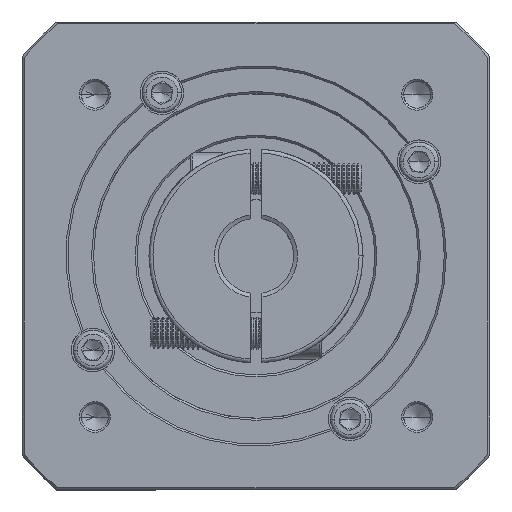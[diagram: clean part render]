
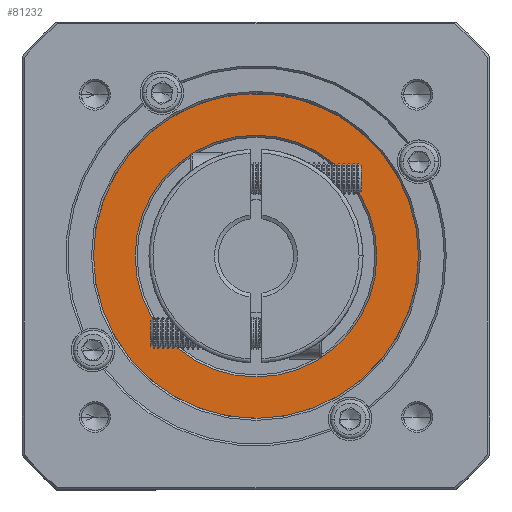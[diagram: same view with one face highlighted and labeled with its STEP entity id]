
A CAD part, top view. The second image highlights one B-rep face of the part: STEP entity #81232.
In plain terms, the highlighted planar face has unit normal (0, 0, 1).
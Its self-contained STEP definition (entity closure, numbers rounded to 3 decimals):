
#293 = DIRECTION ( 'NONE',  ( 1., 0., 0. ) ) ;
#825 = EDGE_CURVE ( 'NONE', #33603, #29951, #53869, .T. ) ;
#3410 = CIRCLE ( 'NONE', #113647, 41. ) ;
#6232 = CARTESIAN_POINT ( 'NONE',  ( 50.335, 124.67, -1.811 ) ) ;
#8587 = AXIS2_PLACEMENT_3D ( 'NONE', #101440, #47185, #110608 ) ;
#9395 = ORIENTED_EDGE ( 'NONE', *, *, #37857, .T. ) ;
#12086 = AXIS2_PLACEMENT_3D ( 'NONE', #52855, #116270, #61982 ) ;
#13715 = DIRECTION ( 'NONE',  ( 0., 0., -1. ) ) ;
#15083 = CARTESIAN_POINT ( 'NONE',  ( 11.477, 137.748, -1.811 ) ) ;
#15400 = DIRECTION ( 'NONE',  ( 1., 0., 0. ) ) ;
#18752 = CARTESIAN_POINT ( 'NONE',  ( 9.335, 124.67, -1.811 ) ) ;
#19174 = ORIENTED_EDGE ( 'NONE', *, *, #60988, .T. ) ;
#22316 = CIRCLE ( 'NONE', #34248, 30.5 ) ;
#22472 = CIRCLE ( 'NONE', #63298, 41. ) ;
#29219 = CARTESIAN_POINT ( 'NONE',  ( 80.835, 124.67, -1.811 ) ) ;
#29402 = CIRCLE ( 'NONE', #50559, 41. ) ;
#29951 = VERTEX_POINT ( 'NONE', #59395 ) ;
#30535 = EDGE_CURVE ( 'NONE', #49457, #73857, #89383, .T. ) ;
#30583 = VERTEX_POINT ( 'NONE', #44133 ) ;
#30883 = CIRCLE ( 'NONE', #108601, 41. ) ;
#31429 = AXIS2_PLACEMENT_3D ( 'NONE', #45629, #109002, #54716 ) ;
#33441 = DIRECTION ( 'NONE',  ( 0., 0., 1. ) ) ;
#33603 = VERTEX_POINT ( 'NONE', #107841 ) ;
#34248 = AXIS2_PLACEMENT_3D ( 'NONE', #68174, #13715, #77256 ) ;
#34361 = VERTEX_POINT ( 'NONE', #102905 ) ;
#36055 = ORIENTED_EDGE ( 'NONE', *, *, #83882, .T. ) ;
#37857 = EDGE_CURVE ( 'NONE', #30583, #33603, #115239, .T. ) ;
#41640 = CARTESIAN_POINT ( 'NONE',  ( 50.335, 124.67, -1.811 ) ) ;
#41952 = FACE_BOUND ( 'NONE', #46155, .T. ) ;
#44133 = CARTESIAN_POINT ( 'NONE',  ( 82.1, 98.748, -1.811 ) ) ;
#44290 = EDGE_CURVE ( 'NONE', #95871, #30583, #3410, .T. ) ;
#45629 = CARTESIAN_POINT ( 'NONE',  ( 50.335, 124.67, -1.811 ) ) ;
#46155 = EDGE_LOOP ( 'NONE', ( #57676, #80746 ) ) ;
#47185 = DIRECTION ( 'NONE',  ( 0., 0., 1. ) ) ;
#49457 = VERTEX_POINT ( 'NONE', #29219 ) ;
#50559 = AXIS2_PLACEMENT_3D ( 'NONE', #41640, #105082, #50788 ) ;
#50788 = DIRECTION ( 'NONE',  ( 1., 0., 0. ) ) ;
#50879 = DIRECTION ( 'NONE',  ( 0., 0., 1. ) ) ;
#52855 = CARTESIAN_POINT ( 'NONE',  ( 50.335, 124.67, -1.811 ) ) ;
#53869 = CIRCLE ( 'NONE', #112162, 41. ) ;
#54716 = DIRECTION ( 'NONE',  ( 1., 0., 0. ) ) ;
#54755 = DIRECTION ( 'NONE',  ( 0., 0., 1. ) ) ;
#54768 = ORIENTED_EDGE ( 'NONE', *, *, #91751, .T. ) ;
#57676 = ORIENTED_EDGE ( 'NONE', *, *, #30535, .T. ) ;
#58820 = VERTEX_POINT ( 'NONE', #15083 ) ;
#59105 = ORIENTED_EDGE ( 'NONE', *, *, #825, .T. ) ;
#59395 = CARTESIAN_POINT ( 'NONE',  ( 91.335, 124.67, -1.811 ) ) ;
#60988 = EDGE_CURVE ( 'NONE', #58820, #95871, #29402, .T. ) ;
#61982 = DIRECTION ( 'NONE',  ( 1., 0., 0. ) ) ;
#63298 = AXIS2_PLACEMENT_3D ( 'NONE', #87781, #33441, #96960 ) ;
#68174 = CARTESIAN_POINT ( 'NONE',  ( 50.335, 124.67, -1.811 ) ) ;
#69865 = DIRECTION ( 'NONE',  ( 0., 0., 1. ) ) ;
#70532 = ORIENTED_EDGE ( 'NONE', *, *, #44290, .T. ) ;
#73857 = VERTEX_POINT ( 'NONE', #78807 ) ;
#77256 = DIRECTION ( 'NONE',  ( 1., 0., 0. ) ) ;
#78807 = CARTESIAN_POINT ( 'NONE',  ( 19.835, 124.67, -1.811 ) ) ;
#80746 = ORIENTED_EDGE ( 'NONE', *, *, #100034, .T. ) ;
#81232 = ADVANCED_FACE ( 'NONE', ( #90171, #41952 ), #82794, .T. ) ;
#82794 = PLANE ( 'NONE',  #8587 ) ;
#83882 = EDGE_CURVE ( 'NONE', #34361, #58820, #30883, .T. ) ;
#87781 = CARTESIAN_POINT ( 'NONE',  ( 50.335, 124.67, -1.811 ) ) ;
#89383 = CIRCLE ( 'NONE', #12086, 30.5 ) ;
#90171 = FACE_OUTER_BOUND ( 'NONE', #108456, .T. ) ;
#91751 = EDGE_CURVE ( 'NONE', #29951, #34361, #22472, .T. ) ;
#95871 = VERTEX_POINT ( 'NONE', #18752 ) ;
#96960 = DIRECTION ( 'NONE',  ( 1., 0., 0. ) ) ;
#100034 = EDGE_CURVE ( 'NONE', #73857, #49457, #22316, .T. ) ;
#101440 = CARTESIAN_POINT ( 'NONE',  ( 50.335, 124.67, -1.811 ) ) ;
#102905 = CARTESIAN_POINT ( 'NONE',  ( 18.57, 150.593, -1.811 ) ) ;
#105082 = DIRECTION ( 'NONE',  ( 0., 0., 1. ) ) ;
#105184 = CARTESIAN_POINT ( 'NONE',  ( 50.335, 124.67, -1.811 ) ) ;
#107841 = CARTESIAN_POINT ( 'NONE',  ( 89.194, 111.593, -1.811 ) ) ;
#108456 = EDGE_LOOP ( 'NONE', ( #9395, #59105, #54768, #36055, #19174, #70532 ) ) ;
#108601 = AXIS2_PLACEMENT_3D ( 'NONE', #109037, #54755, #293 ) ;
#109002 = DIRECTION ( 'NONE',  ( 0., 0., 1. ) ) ;
#109037 = CARTESIAN_POINT ( 'NONE',  ( 50.335, 124.67, -1.811 ) ) ;
#110608 = DIRECTION ( 'NONE',  ( 1., 0., 0. ) ) ;
#112162 = AXIS2_PLACEMENT_3D ( 'NONE', #105184, #50879, #114286 ) ;
#113647 = AXIS2_PLACEMENT_3D ( 'NONE', #6232, #69865, #15400 ) ;
#114286 = DIRECTION ( 'NONE',  ( 1., 0., 0. ) ) ;
#115239 = CIRCLE ( 'NONE', #31429, 41. ) ;
#116270 = DIRECTION ( 'NONE',  ( 0., 0., -1. ) ) ;
